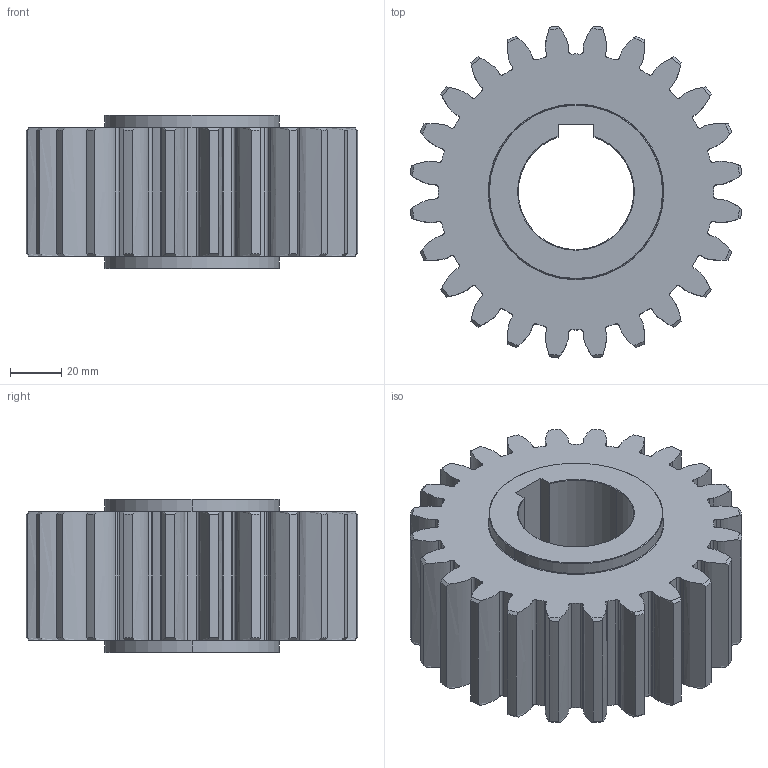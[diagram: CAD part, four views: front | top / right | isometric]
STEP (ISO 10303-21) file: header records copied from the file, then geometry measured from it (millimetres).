
FILE_DESCRIPTION (( 'STEP AP214' ), '1' );
FILE_NAME ('1SG__S050024S.STEP', '2021-08-03T07:52:47', ( '' ), ( '' ), 'SwSTEP 2.0', 'SolidWorks 2021', '' );
FILE_SCHEMA (( 'AUTOMOTIVE_DESIGN' ));
Length unit declared in the file: millimetre
Products named in the file (1): 1SG__S050024S
Bounding box: 129.31 x 129.31 x 60 mm (x, y, z)
Volume: 492786.6 mm3; surface area: 68204.5 mm2
Topology: 1 solids, 1 shells, 256 faces, 792 edges, 540 vertices
Faces by surface type: cylinder 91, bspline 72, cone 58, plane 31, torus 4
Entity records: 16342 total; most frequent: CARTESIAN_POINT 9521, ORIENTED_EDGE 1584, DIRECTION 1262, EDGE_CURVE 792, VERTEX_POINT 540, AXIS2_PLACEMENT_3D 481, LINE 300, VECTOR 300
